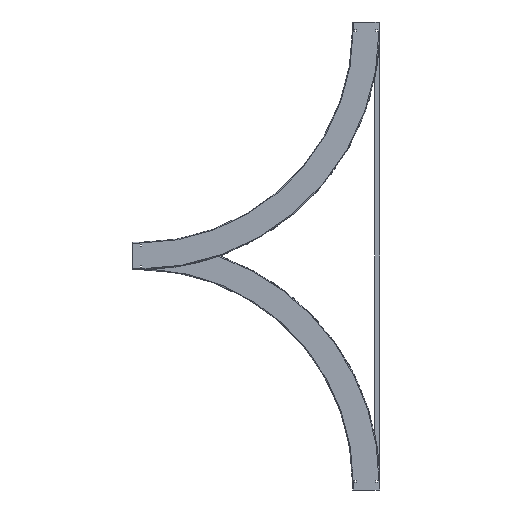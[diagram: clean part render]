
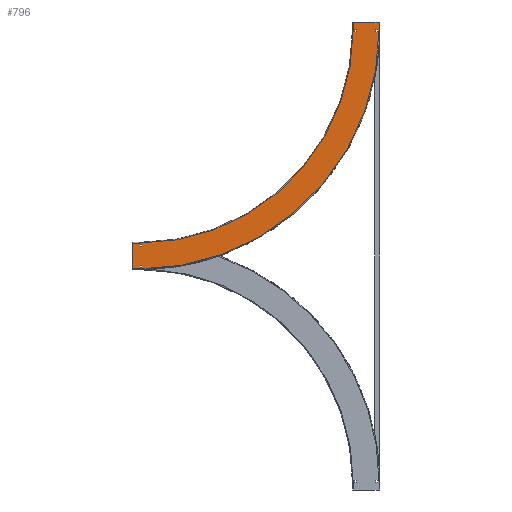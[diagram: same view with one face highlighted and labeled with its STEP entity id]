
A CAD part, left-side view. The second image highlights one B-rep face of the part: STEP entity #796.
In plain terms, the highlighted planar face has unit normal (-1, 0, 0).
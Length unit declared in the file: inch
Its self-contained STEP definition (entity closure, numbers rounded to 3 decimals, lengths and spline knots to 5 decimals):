
#1=DIRECTION('',(0.,0.,-1.));
#2=VECTOR('',#1,5.838);
#3=CARTESIAN_POINT('',(0.,-1.75,54.));
#4=LINE('',#3,#2);
#5=DIRECTION('',(0.,1.,0.));
#6=VECTOR('',#5,5.838);
#7=CARTESIAN_POINT('',(0.,48.162,-1.75));
#8=LINE('',#7,#6);
#9=DIRECTION('',(0.,0.,-1.));
#10=VECTOR('',#9,0.41);
#11=CARTESIAN_POINT('',(0.,53.7035,0.455));
#12=LINE('',#11,#10);
#13=DIRECTION('',(0.,-1.,0.));
#14=VECTOR('',#13,0.41);
#15=CARTESIAN_POINT('',(0.,53.7035,0.045));
#16=LINE('',#15,#14);
#17=DIRECTION('',(0.,0.,1.));
#18=VECTOR('',#17,0.41);
#19=CARTESIAN_POINT('',(0.,53.2935,0.045));
#20=LINE('',#19,#18);
#21=DIRECTION('',(0.,1.,0.));
#22=VECTOR('',#21,0.41);
#23=CARTESIAN_POINT('',(0.,53.2935,0.455));
#24=LINE('',#23,#22);
#25=DIRECTION('',(0.,1.,0.));
#26=VECTOR('',#25,0.41);
#27=CARTESIAN_POINT('',(0.,48.4585,0.455));
#28=LINE('',#27,#26);
#29=DIRECTION('',(0.,0.,-1.));
#30=VECTOR('',#29,0.41);
#31=CARTESIAN_POINT('',(0.,48.8685,0.455));
#32=LINE('',#31,#30);
#33=DIRECTION('',(0.,-1.,0.));
#34=VECTOR('',#33,0.41);
#35=CARTESIAN_POINT('',(0.,48.8685,0.045));
#36=LINE('',#35,#34);
#37=DIRECTION('',(0.,0.,1.));
#38=VECTOR('',#37,0.41);
#39=CARTESIAN_POINT('',(0.,48.4585,0.045));
#40=LINE('',#39,#38);
#41=DIRECTION('',(0.,0.,-1.));
#42=VECTOR('',#41,0.41);
#43=CARTESIAN_POINT('',(0.,0.455,48.86788));
#44=LINE('',#43,#42);
#45=DIRECTION('',(0.,-1.,0.));
#46=VECTOR('',#45,0.41);
#47=CARTESIAN_POINT('',(0.,0.455,48.45788));
#48=LINE('',#47,#46);
#49=DIRECTION('',(0.,0.,1.));
#50=VECTOR('',#49,0.41);
#51=CARTESIAN_POINT('',(0.,0.045,48.45788));
#52=LINE('',#51,#50);
#53=DIRECTION('',(0.,1.,0.));
#54=VECTOR('',#53,0.41);
#55=CARTESIAN_POINT('',(0.,0.045,48.86788));
#56=LINE('',#55,#54);
#57=DIRECTION('',(0.,0.,1.));
#58=VECTOR('',#57,0.41);
#59=CARTESIAN_POINT('',(0.,0.045,53.29293));
#60=LINE('',#59,#58);
#61=DIRECTION('',(0.,1.,0.));
#62=VECTOR('',#61,0.41);
#63=CARTESIAN_POINT('',(0.,0.045,53.70293));
#64=LINE('',#63,#62);
#65=DIRECTION('',(0.,0.,-1.));
#66=VECTOR('',#65,0.41);
#67=CARTESIAN_POINT('',(0.,0.455,53.70293));
#68=LINE('',#67,#66);
#69=DIRECTION('',(0.,-1.,0.));
#70=VECTOR('',#69,0.41);
#71=CARTESIAN_POINT('',(0.,0.455,53.29293));
#72=LINE('',#71,#70);
#73=DIRECTION('',(0.,0.,1.));
#74=VECTOR('',#73,1.75);
#75=CARTESIAN_POINT('',(0.,54.,-1.75));
#76=LINE('',#75,#74);
#114=DIRECTION('',(0.,0.,-1.));
#115=VECTOR('',#114,1.75);
#116=CARTESIAN_POINT('',(0.,48.162,0.));
#117=LINE('',#116,#115);
#123=CARTESIAN_POINT('',(0.,0.,0.));
#124=DIRECTION('',(-1.,0.,0.));
#125=DIRECTION('',(0.,0.,1.));
#126=AXIS2_PLACEMENT_3D('',#123,#124,#125);
#128=DIRECTION('',(0.,1.,0.));
#129=VECTOR('',#128,1.75);
#130=CARTESIAN_POINT('',(0.,-1.75,48.162));
#131=LINE('',#130,#129);
#169=DIRECTION('',(0.,-1.,0.));
#170=VECTOR('',#169,1.75);
#171=CARTESIAN_POINT('',(0.,0.,54.));
#172=LINE('',#171,#170);
#178=CARTESIAN_POINT('',(0.,0.,0.));
#179=DIRECTION('',(1.,0.,0.));
#180=DIRECTION('',(0.,1.,0.));
#181=AXIS2_PLACEMENT_3D('',#178,#179,#180);
#573=CARTESIAN_POINT('',(0.,-1.75,48.162));
#575=VERTEX_POINT('',#573);
#579=CARTESIAN_POINT('',(0.,0.,48.162));
#581=VERTEX_POINT('',#579);
#585=CARTESIAN_POINT('',(0.,48.162,0.));
#587=VERTEX_POINT('',#585);
#591=CARTESIAN_POINT('',(0.,48.162,-1.75));
#593=VERTEX_POINT('',#591);
#621=CARTESIAN_POINT('',(0.,54.,-1.75));
#622=VERTEX_POINT('',#621);
#623=CARTESIAN_POINT('',(0.,-1.75,54.));
#624=VERTEX_POINT('',#623);
#629=CARTESIAN_POINT('',(0.,54.,0.));
#631=VERTEX_POINT('',#629);
#635=CARTESIAN_POINT('',(0.,0.,54.));
#637=VERTEX_POINT('',#635);
#669=CARTESIAN_POINT('',(0.,53.7035,0.455));
#670=CARTESIAN_POINT('',(0.,53.7035,0.045));
#671=VERTEX_POINT('',#669);
#672=VERTEX_POINT('',#670);
#673=CARTESIAN_POINT('',(0.,53.2935,0.045));
#674=VERTEX_POINT('',#673);
#675=CARTESIAN_POINT('',(0.,53.2935,0.455));
#676=VERTEX_POINT('',#675);
#677=CARTESIAN_POINT('',(0.,48.4585,0.455));
#678=CARTESIAN_POINT('',(0.,48.8685,0.455));
#679=VERTEX_POINT('',#677);
#680=VERTEX_POINT('',#678);
#681=CARTESIAN_POINT('',(0.,48.8685,0.045));
#682=VERTEX_POINT('',#681);
#683=CARTESIAN_POINT('',(0.,48.4585,0.045));
#684=VERTEX_POINT('',#683);
#701=CARTESIAN_POINT('',(0.,0.455,48.86788));
#702=CARTESIAN_POINT('',(0.,0.455,48.45788));
#703=VERTEX_POINT('',#701);
#704=VERTEX_POINT('',#702);
#705=CARTESIAN_POINT('',(0.,0.045,48.45788));
#706=VERTEX_POINT('',#705);
#707=CARTESIAN_POINT('',(0.,0.045,48.86788));
#708=VERTEX_POINT('',#707);
#709=CARTESIAN_POINT('',(0.,0.045,53.29293));
#710=CARTESIAN_POINT('',(0.,0.045,53.70293));
#711=VERTEX_POINT('',#709);
#712=VERTEX_POINT('',#710);
#713=CARTESIAN_POINT('',(0.,0.455,53.70293));
#714=VERTEX_POINT('',#713);
#715=CARTESIAN_POINT('',(0.,0.455,53.29293));
#716=VERTEX_POINT('',#715);
#733=CARTESIAN_POINT('',(0.,0.,0.));
#734=DIRECTION('',(1.,0.,0.));
#735=DIRECTION('',(0.,0.,-1.));
#736=AXIS2_PLACEMENT_3D('',#733,#734,#735);
#737=PLANE('',#736);
#739=ORIENTED_EDGE('',*,*,#738,.T.);
#741=ORIENTED_EDGE('',*,*,#740,.T.);
#743=ORIENTED_EDGE('',*,*,#742,.T.);
#745=ORIENTED_EDGE('',*,*,#744,.T.);
#747=ORIENTED_EDGE('',*,*,#746,.T.);
#749=ORIENTED_EDGE('',*,*,#748,.T.);
#751=ORIENTED_EDGE('',*,*,#750,.T.);
#753=ORIENTED_EDGE('',*,*,#752,.T.);
#754=EDGE_LOOP('',(#739,#741,#743,#745,#747,#749,#751,#753));
#755=FACE_OUTER_BOUND('',#754,.F.);
#757=ORIENTED_EDGE('',*,*,#756,.T.);
#759=ORIENTED_EDGE('',*,*,#758,.T.);
#761=ORIENTED_EDGE('',*,*,#760,.T.);
#763=ORIENTED_EDGE('',*,*,#762,.T.);
#764=EDGE_LOOP('',(#757,#759,#761,#763));
#765=FACE_BOUND('',#764,.F.);
#767=ORIENTED_EDGE('',*,*,#766,.T.);
#769=ORIENTED_EDGE('',*,*,#768,.T.);
#771=ORIENTED_EDGE('',*,*,#770,.T.);
#773=ORIENTED_EDGE('',*,*,#772,.T.);
#774=EDGE_LOOP('',(#767,#769,#771,#773));
#775=FACE_BOUND('',#774,.F.);
#777=ORIENTED_EDGE('',*,*,#776,.T.);
#779=ORIENTED_EDGE('',*,*,#778,.T.);
#781=ORIENTED_EDGE('',*,*,#780,.T.);
#783=ORIENTED_EDGE('',*,*,#782,.T.);
#784=EDGE_LOOP('',(#777,#779,#781,#783));
#785=FACE_BOUND('',#784,.F.);
#787=ORIENTED_EDGE('',*,*,#786,.T.);
#789=ORIENTED_EDGE('',*,*,#788,.T.);
#791=ORIENTED_EDGE('',*,*,#790,.T.);
#793=ORIENTED_EDGE('',*,*,#792,.T.);
#794=EDGE_LOOP('',(#787,#789,#791,#793));
#795=FACE_BOUND('',#794,.F.);
#796=ADVANCED_FACE('',(#755,#765,#775,#785,#795),#737,.F.);
#127=CIRCLE('',#126,48.162);
#182=CIRCLE('',#181,54.);
#738=EDGE_CURVE('',#622,#631,#76,.T.);
#740=EDGE_CURVE('',#631,#637,#182,.T.);
#742=EDGE_CURVE('',#637,#624,#172,.T.);
#744=EDGE_CURVE('',#624,#575,#4,.T.);
#746=EDGE_CURVE('',#575,#581,#131,.T.);
#748=EDGE_CURVE('',#581,#587,#127,.T.);
#750=EDGE_CURVE('',#587,#593,#117,.T.);
#752=EDGE_CURVE('',#593,#622,#8,.T.);
#756=EDGE_CURVE('',#671,#672,#12,.T.);
#758=EDGE_CURVE('',#672,#674,#16,.T.);
#760=EDGE_CURVE('',#674,#676,#20,.T.);
#762=EDGE_CURVE('',#676,#671,#24,.T.);
#766=EDGE_CURVE('',#679,#680,#28,.T.);
#768=EDGE_CURVE('',#680,#682,#32,.T.);
#770=EDGE_CURVE('',#682,#684,#36,.T.);
#772=EDGE_CURVE('',#684,#679,#40,.T.);
#776=EDGE_CURVE('',#703,#704,#44,.T.);
#778=EDGE_CURVE('',#704,#706,#48,.T.);
#780=EDGE_CURVE('',#706,#708,#52,.T.);
#782=EDGE_CURVE('',#708,#703,#56,.T.);
#786=EDGE_CURVE('',#711,#712,#60,.T.);
#788=EDGE_CURVE('',#712,#714,#64,.T.);
#790=EDGE_CURVE('',#714,#716,#68,.T.);
#792=EDGE_CURVE('',#716,#711,#72,.T.);
